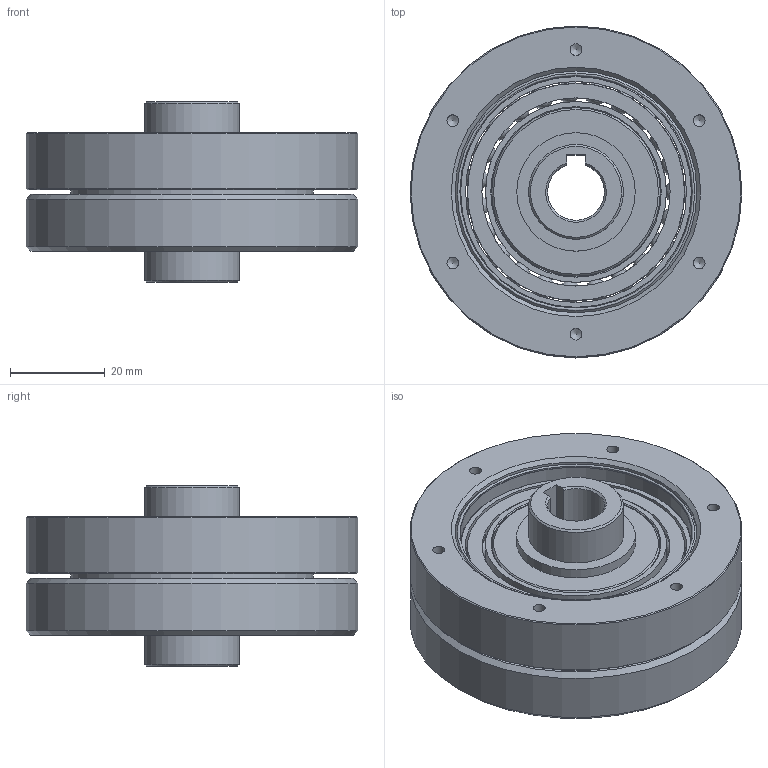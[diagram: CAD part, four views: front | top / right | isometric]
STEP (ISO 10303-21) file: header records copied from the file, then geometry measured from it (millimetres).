
FILE_DESCRIPTION (( 'STEP AP203' ), '1' );
FILE_NAME ('FDS-20-XXX-CJ.STEP', '2024-11-15T01:34:04', ( '微软用户' ), ( '微软中国' ), 'SwSTEP 2.0', 'SolidWorks 2016', '' );
FILE_SCHEMA (( 'CONFIG_CONTROL_DESIGN' ));
Length unit declared in the file: millimetre
Products named in the file (1): FDS-20-XXX-CJ
Bounding box: 70 x 70 x 38 mm (x, y, z)
Volume: 74664.6 mm3; surface area: 47102.1 mm2
Topology: 56 solids, 56 shells, 524 faces, 1475 edges, 971 vertices
Faces by surface type: plane 299, cylinder 134, sphere 46, cone 38, torus 7
Full cylindrical faces by diameter (mm): 2.5 x12, 20 x2, 25 x2, 35.56 x3, 38.15 x4, 39.7 x2, 45.8 x2, 46.635 x4, 49.073 x3, 51.02 x2, 51.123 x1, 70 x2
Entity records: 15269 total; most frequent: DIRECTION 2748, CARTESIAN_POINT 2615, ORIENTED_EDGE 2454, EDGE_CURVE 1227, AXIS2_PLACEMENT_3D 1000, VERTEX_POINT 851, VECTOR 748, LINE 748
